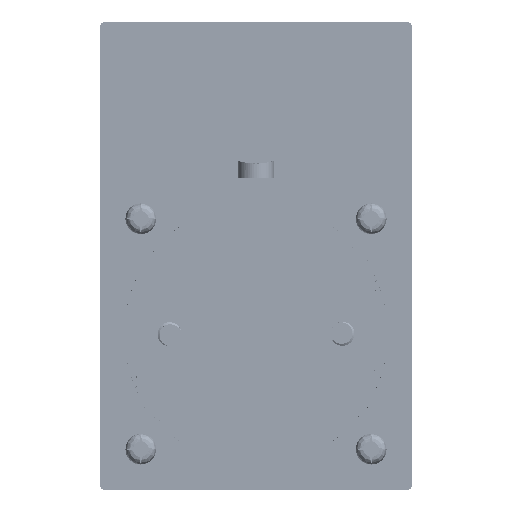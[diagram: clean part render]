
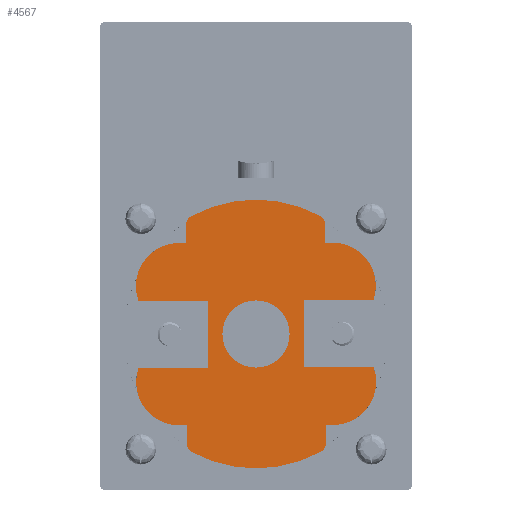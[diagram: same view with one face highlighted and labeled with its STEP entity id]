
A CAD part, front view. The second image highlights one B-rep face of the part: STEP entity #4567.
In plain terms, the highlighted planar face has unit normal (0, -1, 0).
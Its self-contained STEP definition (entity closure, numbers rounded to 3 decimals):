
#1596=FACE_BOUND('',#10960,.T.);
#1597=FACE_BOUND('',#10961,.T.);
#4567=ADVANCED_FACE('',(#1596,#1597),#6751,.F.);
#6751=PLANE('',#47734);
#10960=EDGE_LOOP('',(#19335,#19336,#19337,#19338,#19339,#19340,#19341,#19342,
#19343,#19344,#19345,#19346,#19347,#19348,#19349,#19350,#19351,#19352,#19353,
#19354,#19355,#19356,#19357,#19358,#19359));
#10961=EDGE_LOOP('',(#19360));
#13002=CIRCLE('',#46498,2.);
#13004=CIRCLE('',#46501,28.);
#13007=CIRCLE('',#46505,2.);
#13010=CIRCLE('',#46514,2.);
#13012=CIRCLE('',#46517,28.);
#13015=CIRCLE('',#46521,2.);
#13524=CIRCLE('',#47634,9.);
#13527=CIRCLE('',#47640,9.);
#13528=CIRCLE('',#47643,9.);
#13530=CIRCLE('',#47647,8.96);
#13532=CIRCLE('',#47651,9.);
#13552=CIRCLE('',#47724,7.);
#19335=ORIENTED_EDGE('',*,*,#35429,.F.);
#19336=ORIENTED_EDGE('',*,*,#34990,.T.);
#19337=ORIENTED_EDGE('',*,*,#34993,.T.);
#19338=ORIENTED_EDGE('',*,*,#33362,.T.);
#19339=ORIENTED_EDGE('',*,*,#33361,.T.);
#19340=ORIENTED_EDGE('',*,*,#33357,.T.);
#19341=ORIENTED_EDGE('',*,*,#33354,.T.);
#19342=ORIENTED_EDGE('',*,*,#33341,.T.);
#19343=ORIENTED_EDGE('',*,*,#34996,.T.);
#19344=ORIENTED_EDGE('',*,*,#34999,.T.);
#19345=ORIENTED_EDGE('',*,*,#35002,.T.);
#19346=ORIENTED_EDGE('',*,*,#35436,.F.);
#19347=ORIENTED_EDGE('',*,*,#35431,.F.);
#19348=ORIENTED_EDGE('',*,*,#35437,.F.);
#19349=ORIENTED_EDGE('',*,*,#34976,.T.);
#19350=ORIENTED_EDGE('',*,*,#34979,.T.);
#19351=ORIENTED_EDGE('',*,*,#33251,.T.);
#19352=ORIENTED_EDGE('',*,*,#33250,.T.);
#19353=ORIENTED_EDGE('',*,*,#33246,.T.);
#19354=ORIENTED_EDGE('',*,*,#33243,.T.);
#19355=ORIENTED_EDGE('',*,*,#33229,.T.);
#19356=ORIENTED_EDGE('',*,*,#34981,.T.);
#19357=ORIENTED_EDGE('',*,*,#34985,.T.);
#19358=ORIENTED_EDGE('',*,*,#35428,.F.);
#19359=ORIENTED_EDGE('',*,*,#35423,.F.);
#19360=ORIENTED_EDGE('',*,*,#35422,.F.);
#28630=VERTEX_POINT('',#65716);
#28631=VERTEX_POINT('',#65718);
#28640=VERTEX_POINT('',#65739);
#28643=VERTEX_POINT('',#65747);
#28645=VERTEX_POINT('',#65753);
#28648=VERTEX_POINT('',#65761);
#28730=VERTEX_POINT('',#65942);
#28731=VERTEX_POINT('',#65944);
#28740=VERTEX_POINT('',#65964);
#28743=VERTEX_POINT('',#65972);
#28745=VERTEX_POINT('',#65978);
#28748=VERTEX_POINT('',#65986);
#29820=VERTEX_POINT('',#89312);
#29821=VERTEX_POINT('',#89314);
#29823=VERTEX_POINT('',#89322);
#29826=VERTEX_POINT('',#89330);
#29829=VERTEX_POINT('',#89346);
#29830=VERTEX_POINT('',#89348);
#29833=VERTEX_POINT('',#89364);
#29835=VERTEX_POINT('',#89376);
#29837=VERTEX_POINT('',#89382);
#30125=VERTEX_POINT('',#117763);
#30126=VERTEX_POINT('',#117766);
#30127=VERTEX_POINT('',#117767);
#30130=VERTEX_POINT('',#117782);
#30131=VERTEX_POINT('',#117783);
#33229=EDGE_CURVE('',#28631,#28630,#39939,.T.);
#33243=EDGE_CURVE('',#28640,#28631,#13002,.T.);
#33246=EDGE_CURVE('',#28643,#28640,#13004,.T.);
#33250=EDGE_CURVE('',#28645,#28643,#13007,.T.);
#33251=EDGE_CURVE('',#28648,#28645,#39953,.T.);
#33341=EDGE_CURVE('',#28731,#28730,#40041,.T.);
#33354=EDGE_CURVE('',#28740,#28731,#13010,.T.);
#33357=EDGE_CURVE('',#28743,#28740,#13012,.T.);
#33361=EDGE_CURVE('',#28745,#28743,#13015,.T.);
#33362=EDGE_CURVE('',#28748,#28745,#40054,.T.);
#34976=EDGE_CURVE('',#29821,#29820,#13524,.T.);
#34979=EDGE_CURVE('',#29820,#28648,#40891,.T.);
#34981=EDGE_CURVE('',#28630,#29823,#40893,.T.);
#34985=EDGE_CURVE('',#29823,#29826,#13527,.T.);
#34990=EDGE_CURVE('',#29830,#29829,#13528,.T.);
#34993=EDGE_CURVE('',#29829,#28748,#40899,.T.);
#34996=EDGE_CURVE('',#28730,#29833,#13530,.T.);
#34999=EDGE_CURVE('',#29833,#29835,#40900,.T.);
#35002=EDGE_CURVE('',#29835,#29837,#13532,.T.);
#35422=EDGE_CURVE('',#30125,#30125,#13552,.T.);
#35423=EDGE_CURVE('',#30126,#30127,#41053,.T.);
#35428=EDGE_CURVE('',#30127,#29826,#41058,.T.);
#35429=EDGE_CURVE('',#29830,#30126,#41059,.T.);
#35431=EDGE_CURVE('',#30130,#30131,#41061,.T.);
#35436=EDGE_CURVE('',#30131,#29837,#41066,.T.);
#35437=EDGE_CURVE('',#29821,#30130,#41067,.T.);
#39939=LINE('',#65717,#43233);
#39953=LINE('',#65760,#43247);
#40041=LINE('',#65943,#43335);
#40054=LINE('',#65985,#43348);
#40891=LINE('',#89319,#44185);
#40893=LINE('',#89323,#44187);
#40899=LINE('',#89353,#44193);
#40900=LINE('',#89377,#44194);
#41053=LINE('',#117765,#44347);
#41058=LINE('',#117775,#44352);
#41059=LINE('',#117777,#44353);
#41061=LINE('',#117781,#44355);
#41066=LINE('',#117791,#44360);
#41067=LINE('',#117793,#44361);
#43233=VECTOR('',#50972,1.);
#43247=VECTOR('',#51010,1.);
#43335=VECTOR('',#51106,1.);
#43348=VECTOR('',#51143,1.);
#44185=VECTOR('',#54208,1.);
#44187=VECTOR('',#54212,1.);
#44193=VECTOR('',#54234,1.);
#44194=VECTOR('',#54241,1.);
#44347=VECTOR('',#54548,1.);
#44352=VECTOR('',#54555,1.);
#44353=VECTOR('',#54558,1.);
#44355=VECTOR('',#54564,1.);
#44360=VECTOR('',#54571,1.);
#44361=VECTOR('',#54574,1.);
#46498=AXIS2_PLACEMENT_3D('',#65744,#50990,#50991);
#46501=AXIS2_PLACEMENT_3D('',#65750,#50997,#50998);
#46505=AXIS2_PLACEMENT_3D('',#65758,#51006,#51007);
#46514=AXIS2_PLACEMENT_3D('',#65969,#51123,#51124);
#46517=AXIS2_PLACEMENT_3D('',#65975,#51130,#51131);
#46521=AXIS2_PLACEMENT_3D('',#65983,#51139,#51140);
#47634=AXIS2_PLACEMENT_3D('',#89313,#54201,#54202);
#47640=AXIS2_PLACEMENT_3D('',#89331,#54219,#54220);
#47643=AXIS2_PLACEMENT_3D('',#89347,#54227,#54228);
#47647=AXIS2_PLACEMENT_3D('',#89365,#54237,#54238);
#47651=AXIS2_PLACEMENT_3D('',#89383,#54247,#54248);
#47724=AXIS2_PLACEMENT_3D('',#117762,#54544,#54545);
#47734=AXIS2_PLACEMENT_3D('',#117797,#54580,#54581);
#50972=DIRECTION('',(0.003,0.,-1.));
#50990=DIRECTION('',(0.,-1.,0.));
#50991=DIRECTION('',(1.,0.,0.003));
#50997=DIRECTION('',(0.,-1.,0.));
#50998=DIRECTION('',(1.,0.,0.003));
#51006=DIRECTION('',(0.,-1.,0.));
#51007=DIRECTION('',(1.,0.,0.003));
#51010=DIRECTION('',(-0.003,0.,1.));
#51106=DIRECTION('',(-0.003,0.,1.));
#51123=DIRECTION('',(0.,-1.,0.));
#51124=DIRECTION('',(1.,0.,0.003));
#51130=DIRECTION('',(0.,-1.,0.));
#51131=DIRECTION('',(1.,0.,0.003));
#51139=DIRECTION('',(0.,-1.,0.));
#51140=DIRECTION('',(1.,0.,0.003));
#51143=DIRECTION('',(0.003,0.,-1.));
#54201=DIRECTION('',(0.,-1.,0.));
#54202=DIRECTION('',(1.,0.,0.003));
#54208=DIRECTION('',(-1.,0.,-0.003));
#54212=DIRECTION('',(-1.,0.,-0.003));
#54219=DIRECTION('',(0.,-1.,0.));
#54220=DIRECTION('',(-1.,0.,-0.003));
#54227=DIRECTION('',(0.,-1.,0.));
#54228=DIRECTION('',(-0.89,0.,0.456));
#54234=DIRECTION('',(1.,0.,0.003));
#54237=DIRECTION('',(0.,-1.,0.));
#54238=DIRECTION('',(0.,0.,-1.));
#54241=DIRECTION('',(1.,0.,0.003));
#54247=DIRECTION('',(0.,-1.,0.));
#54248=DIRECTION('',(0.,0.,-1.));
#54544=DIRECTION('',(0.,-1.,0.));
#54545=DIRECTION('',(-1.,0.,-0.003));
#54548=DIRECTION('',(-0.003,0.,1.));
#54555=DIRECTION('',(-1.,0.,-0.003));
#54558=DIRECTION('',(1.,0.,0.003));
#54564=DIRECTION('',(0.003,0.,-1.));
#54571=DIRECTION('',(1.,0.,0.003));
#54574=DIRECTION('',(-1.,0.,-0.003));
#54580=DIRECTION('',(0.,1.,0.));
#54581=DIRECTION('',(0.,0.,1.));
#65716=CARTESIAN_POINT('',(-14.549,-189.1,18.963));
#65717=CARTESIAN_POINT('',(-14.558,-189.1,22.761));
#65718=CARTESIAN_POINT('',(-14.558,-189.1,22.761));
#65739=CARTESIAN_POINT('',(-13.525,-189.1,24.517));
#65744=CARTESIAN_POINT('',(-12.558,-189.1,22.766));
#65747=CARTESIAN_POINT('',(13.398,-189.1,24.586));
#65750=CARTESIAN_POINT('',(0.,-189.1,0.));
#65753=CARTESIAN_POINT('',(14.441,-189.1,22.835));
#65758=CARTESIAN_POINT('',(12.441,-189.1,22.83));
#65760=CARTESIAN_POINT('',(14.451,-189.1,19.037));
#65761=CARTESIAN_POINT('',(14.451,-189.1,19.037));
#65942=CARTESIAN_POINT('',(14.548,-189.1,-18.837));
#65943=CARTESIAN_POINT('',(14.558,-189.1,-22.761));
#65944=CARTESIAN_POINT('',(14.558,-189.1,-22.761));
#65964=CARTESIAN_POINT('',(13.525,-189.1,-24.517));
#65969=CARTESIAN_POINT('',(12.558,-189.1,-22.766));
#65972=CARTESIAN_POINT('',(-13.398,-189.1,-24.586));
#65975=CARTESIAN_POINT('',(0.,-189.1,0.));
#65978=CARTESIAN_POINT('',(-14.441,-189.1,-22.835));
#65983=CARTESIAN_POINT('',(-12.441,-189.1,-22.83));
#65985=CARTESIAN_POINT('',(-14.451,-189.1,-19.037));
#65986=CARTESIAN_POINT('',(-14.451,-189.1,-19.037));
#89312=CARTESIAN_POINT('',(15.951,-189.1,19.041));
#89313=CARTESIAN_POINT('',(15.974,-189.1,10.041));
#89314=CARTESIAN_POINT('',(24.467,-189.1,7.063));
#89319=CARTESIAN_POINT('',(15.951,-189.1,19.041));
#89322=CARTESIAN_POINT('',(-16.049,-189.1,18.959));
#89323=CARTESIAN_POINT('',(-14.549,-189.1,18.963));
#89330=CARTESIAN_POINT('',(-24.503,-189.1,6.937));
#89331=CARTESIAN_POINT('',(-16.026,-189.1,9.959));
#89346=CARTESIAN_POINT('',(-15.951,-189.1,-19.041));
#89347=CARTESIAN_POINT('',(-15.974,-189.1,-10.041));
#89348=CARTESIAN_POINT('',(-24.468,-189.1,-7.063));
#89353=CARTESIAN_POINT('',(23.753,-189.1,-18.934));
#89364=CARTESIAN_POINT('',(15.978,-189.1,-18.959));
#89365=CARTESIAN_POINT('',(16.02,-189.1,-9.999));
#89376=CARTESIAN_POINT('',(16.119,-189.1,-18.958));
#89377=CARTESIAN_POINT('',(23.752,-189.1,-18.938));
#89382=CARTESIAN_POINT('',(24.503,-189.1,-6.937));
#89383=CARTESIAN_POINT('',(16.026,-189.1,-9.959));
#117762=CARTESIAN_POINT('',(0.,-189.1,0.));
#117763=CARTESIAN_POINT('',(-7.,-189.1,-0.018));
#117765=CARTESIAN_POINT('',(-9.982,-189.1,-7.026));
#117766=CARTESIAN_POINT('',(-9.982,-189.1,-7.026));
#117767=CARTESIAN_POINT('',(-10.018,-189.1,6.974));
#117775=CARTESIAN_POINT('',(-10.018,-189.1,6.974));
#117777=CARTESIAN_POINT('',(-34.164,-189.1,-7.088));
#117781=CARTESIAN_POINT('',(9.982,-189.1,7.026));
#117782=CARTESIAN_POINT('',(9.982,-189.1,7.026));
#117783=CARTESIAN_POINT('',(10.018,-189.1,-6.974));
#117791=CARTESIAN_POINT('',(10.018,-189.1,-6.974));
#117793=CARTESIAN_POINT('',(34.164,-189.1,7.088));
#117797=CARTESIAN_POINT('',(23.741,-189.1,-14.593));
